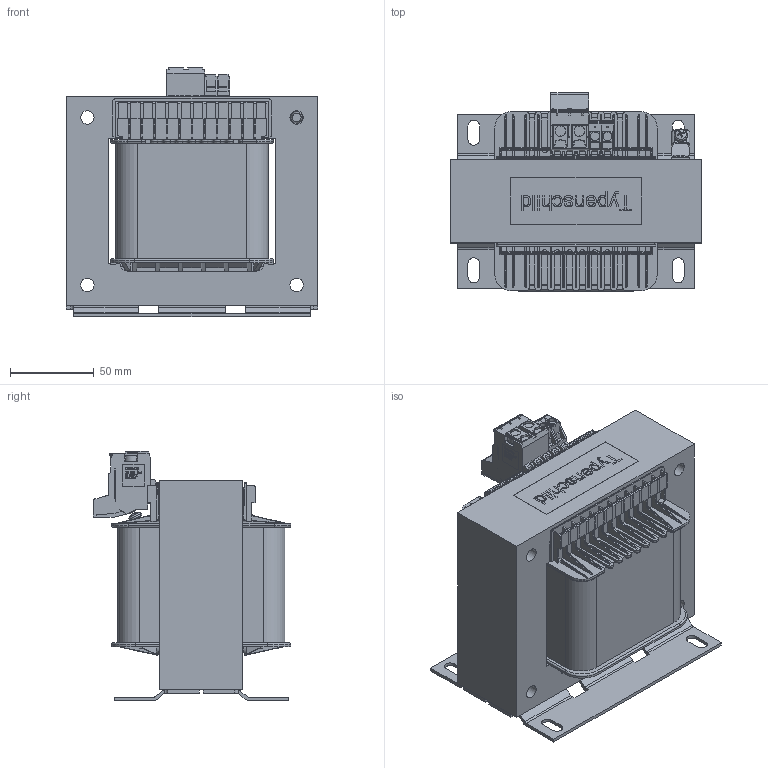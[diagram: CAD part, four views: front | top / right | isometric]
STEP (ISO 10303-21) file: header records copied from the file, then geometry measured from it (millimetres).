
FILE_DESCRIPTION(/* description */ (''),/* implementation_level */ '2;1');
FILE_NAME(/* name */ 'ET0,8 100-690V_24V.stp',/* time_stamp */ '2023-08-31T17:03:42+02:00',/* author */ ('EnneJ'),/* organization */ (''),/* preprocessor_version */ 'ST-DEVELOPER v19.2',/* originating_system */ 'Autodesk Inventor 2023',/* authorisation */ '');
FILE_SCHEMA (('AUTOMOTIVE_DESIGN { 1 0 10303 214 3 1 1 }'));
Products named in the file (13): X0001 ET 002; Erdung 45°; Bauteil2; erd 90 001; M4-8; DIN7337 A4,8x16; Bauteil28; EI150Na_49_6_AK_25272_0_1Ka_Wz711_1; Norm (DIN); FUP_EI150; 17033_TKS_10_2; Leistungsschild 78x28; 1222_TKS_4_1
Assembly tree (14 placements, depth 3):
  X0001 ET 002
    Erdung 45°
      Bauteil2
      erd 90 001
      M4-8
    DIN7337 A4,8x16
    Bauteil28
    EI150Na_49_6_AK_25272_0_1Ka_Wz711_1
    Norm (DIN)
    FUP_EI150  x2
    1222_TKS_4_1  x2
    17033_TKS_10_2
    Leistungsschild 78x28
Bounding box: 150.3 x 118.05 x 148.95 mm (x, y, z)
Volume: 1237695.4 mm3; surface area: 267167.1 mm2
Topology: 13 solids, 13 shells, 5784 faces, 16159 edges, 10502 vertices
Faces by surface type: plane 4541, cylinder 831, bspline 237, torus 142, sphere 21, cone 12
Full cylindrical faces by diameter (mm): 3.242 x1, 3.621 x1, 4 x2, 4.5 x1, 4.8 x1, 5 x1, 8 x4, 9.5 x1
Entity records: 144686 total; most frequent: CARTESIAN_POINT 31309, ORIENTED_EDGE 24456, DIRECTION 22063, EDGE_CURVE 12228, LINE 10273, VECTOR 10273, VERTEX_POINT 7933, AXIS2_PLACEMENT_3D 5895
